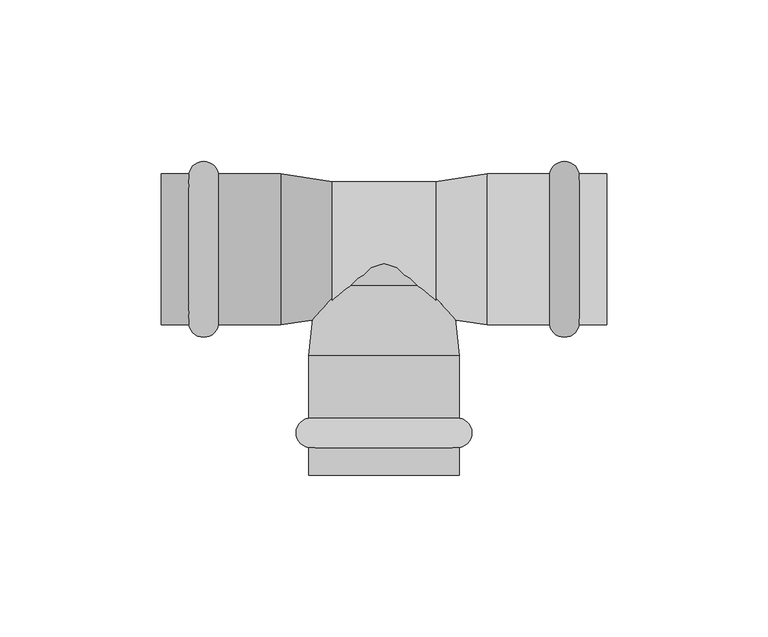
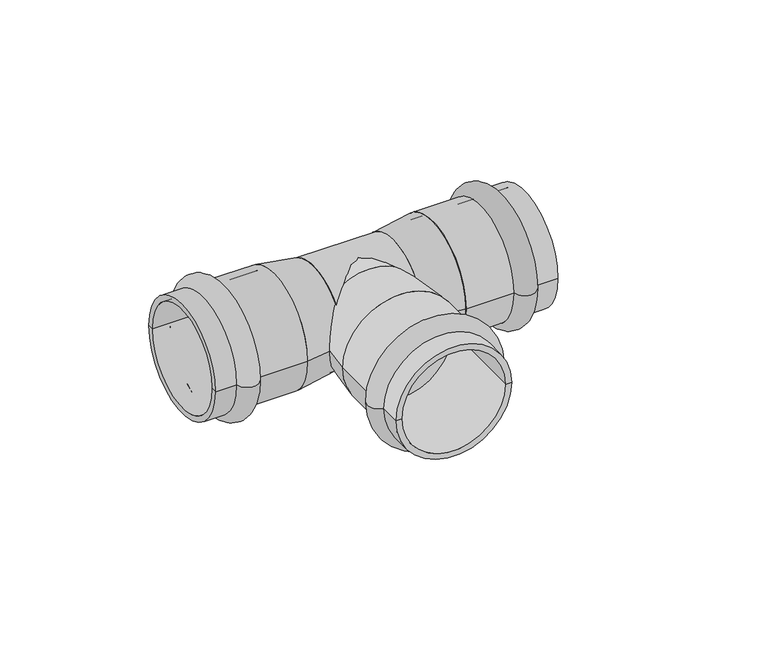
"""IFC4 building model written with IfcOpenShell, lengths in millimetres: pipe fitting geometry, VALTEC_VTi.931.I_Тройник_Ннержавеющая сталь : VTi.931.I."""

from ifc_helpers import new_model, si_unit, point, frame, origin, origin_2d, place, context, project, spatial, polyline, circle_curve, ellipse_curve, trimmed, segment, composite_curve, outline, extrude, source, transform, mapped, element, save
from ifc_brep_helpers import plane_surface, cylinder_surface, revolved_surface, advanced_brep


def pipe_fitting_5453f1fb(model_context):
    return source(origin(), model_context, "Body", "SolidModel", [
        advanced_brep(
        [(23.35, -61.4464272, 0.0), (-23.35, -61.4464272, 0.0), (-23.35, -52.3535728, 0.0), (23.35, -52.3535728, 0.0), (23.35, -70.0, 0.0), (-23.35, -70.0, 0.0), (21.0, -70.0, 0.0), (-21.0, -70.0, 0.0), (21.0, -33.0, 0.0), (-21.0, -33.0, 0.0), (23.35, -33.0, 0.0), (-23.35, -33.0, 0.0)],
        [
            (0, 1, circle_curve(frame((0.0, -61.4464272, 0.0), z_axis=(0.0, 1.0, 0.0), x_axis=(-1.0, 0.0, 0.0)), 23.35)),
            (1, 2, circle_curve(frame((-22.65, -56.9, 0.0), z_axis=(0.0, 0.0, -1.0), x_axis=(0.0, 1.0, 0.0)), 4.6)),
            (2, 3, circle_curve(frame((0.0, -52.3535728, 0.0), z_axis=(0.0, -1.0, 0.0), x_axis=(-1.0, 0.0, 0.0)), 23.35)),
            (3, 0, circle_curve(frame((22.65, -56.9, 0.0), z_axis=(0.0, 0.0, -1.0), x_axis=(0.0, 1.0, 0.0)), 4.6)),
            (1, 0, circle_curve(frame((0.0, -61.4464272, 0.0), z_axis=(0.0, 1.0, 0.0), x_axis=(-1.0, 0.0, 0.0)), 23.35)),
            (3, 2, circle_curve(frame((0.0, -52.3535728, 0.0), z_axis=(0.0, -1.0, 0.0), x_axis=(-1.0, 0.0, 0.0)), 23.35)),
            (4, 5, circle_curve(frame((0.0, -70.0, 0.0), z_axis=(0.0, 1.0, 0.0), x_axis=(-1.0, 0.0, 0.0)), 23.35)),
            (5, 1),
            (0, 4),
            (5, 4, circle_curve(frame((0.0, -70.0, 0.0), z_axis=(0.0, 1.0, 0.0), x_axis=(-1.0, 0.0, 0.0)), 23.35)),
            (6, 7, circle_curve(frame((0.0, -70.0, 0.0), z_axis=(0.0, 1.0, 0.0), x_axis=(-1.0, 0.0, 0.0)), 21.0)),
            (7, 5),
            (4, 6),
            (7, 6, circle_curve(frame((0.0, -70.0, 0.0), z_axis=(0.0, 1.0, 0.0), x_axis=(-1.0, 0.0, 0.0)), 21.0)),
            (8, 9, circle_curve(frame((0.0, -33.0, 0.0), z_axis=(0.0, 1.0, 0.0), x_axis=(-1.0, 0.0, 0.0)), 21.0)),
            (9, 7),
            (6, 8),
            (9, 8, circle_curve(frame((0.0, -33.0, 0.0), z_axis=(0.0, 1.0, 0.0), x_axis=(-1.0, 0.0, 0.0)), 21.0)),
            (10, 11, circle_curve(frame((0.0, -33.0, 0.0), z_axis=(0.0, 1.0, 0.0), x_axis=(-1.0, 0.0, 0.0)), 23.35)),
            (11, 9),
            (8, 10),
            (11, 10, circle_curve(frame((0.0, -33.0, 0.0), z_axis=(0.0, 1.0, 0.0), x_axis=(-1.0, 0.0, 0.0)), 23.35)),
            (2, 11),
            (10, 3),
        ],
        [
            revolved_surface(trimmed(ellipse_curve(frame((-22.65, -56.9, 0.0), z_axis=(0.0, 0.0, 1.0), x_axis=(0.0, 1.0, 0.0)), 4.6, 4.6), [point((-23.35, -52.3535728, 0.0))], [point((-23.35, -61.4464272, 0.0))], True, "CARTESIAN"), (0.0, -73.5364426, 0.0), (0.0, -1.0, 0.0)),
            cylinder_surface(frame((0.0, -73.5364426, 0.0), z_axis=(0.0, -1.0, 0.0), x_axis=(-1.0, 0.0, 0.0)), 23.35),
            plane_surface(frame((0.0, -70.0, 0.0), z_axis=(0.0, -1.0, 0.0), x_axis=(-1.0, 0.0, 0.0))),
            revolved_surface(polyline([(-21.0, -70.0, 0.0), (-21.0, -33.0, 0.0)]), (0.0, -73.5364426, 0.0), (0.0, -1.0, 0.0)),
            plane_surface(frame((0.0, -33.0, 0.0), z_axis=(0.0, 1.0, 0.0), x_axis=(-1.0, 0.0, 0.0))),
        ],
        [
            (0, [[1, 2, 3, 4]]),
            (0, [[5, -4, 6, -2]]),
            (1, [[7, 8, -1, 9]]),
            (1, [[10, -9, -5, -8]]),
            (2, [[11, 12, -7, 13]]),
            (2, [[14, -13, -10, -12]]),
            (3, [[15, 16, -11, 17]]),
            (3, [[18, -17, -14, -16]]),
            (4, [[19, 20, -15, 21]]),
            (4, [[22, -21, -18, -20]]),
            (1, [[-3, 23, -19, 24]]),
            (1, [[-6, -24, -22, -23]]),
        ],
    ),
        advanced_brep(
        [(60.4464272, 23.35, 0.0), (60.4464272, -23.35, 0.0), (51.3535728, -23.35, 0.0), (51.3535728, 23.35, 0.0), (69.0, 23.35, 0.0), (69.0, -23.35, 0.0), (69.0, 21.0, 0.0), (69.0, -21.0, 0.0), (32.0, 21.0, 0.0), (32.0, -21.0, 0.0), (32.0, 23.35, 0.0), (32.0, -23.35, 0.0)],
        [
            (0, 1, circle_curve(frame((60.4464272, 0.0, 0.0), z_axis=(-1.0, 0.0, 0.0), x_axis=(0.0, -1.0, 0.0)), 23.35)),
            (1, 2, circle_curve(frame((55.9, -22.65, 0.0), z_axis=(0.0, 0.0, -1.0), x_axis=(-1.0, 0.0, 0.0)), 4.6)),
            (2, 3, circle_curve(frame((51.3535728, 0.0, 0.0), z_axis=(1.0, 0.0, 0.0), x_axis=(0.0, -1.0, 0.0)), 23.35)),
            (3, 0, circle_curve(frame((55.9, 22.65, 0.0), z_axis=(0.0, 0.0, -1.0), x_axis=(-1.0, 0.0, 0.0)), 4.6)),
            (1, 0, circle_curve(frame((60.4464272, 0.0, 0.0), z_axis=(-1.0, 0.0, 0.0), x_axis=(0.0, -1.0, 0.0)), 23.35)),
            (3, 2, circle_curve(frame((51.3535728, 0.0, 0.0), z_axis=(1.0, 0.0, 0.0), x_axis=(0.0, -1.0, 0.0)), 23.35)),
            (4, 5, circle_curve(frame((69.0, 0.0, 0.0), z_axis=(-1.0, 0.0, 0.0), x_axis=(0.0, -1.0, 0.0)), 23.35)),
            (5, 1),
            (0, 4),
            (5, 4, circle_curve(frame((69.0, 0.0, 0.0), z_axis=(-1.0, 0.0, 0.0), x_axis=(0.0, -1.0, 0.0)), 23.35)),
            (6, 7, circle_curve(frame((69.0, 0.0, 0.0), z_axis=(-1.0, 0.0, 0.0), x_axis=(0.0, -1.0, 0.0)), 21.0)),
            (7, 5),
            (4, 6),
            (7, 6, circle_curve(frame((69.0, 0.0, 0.0), z_axis=(-1.0, 0.0, 0.0), x_axis=(0.0, -1.0, 0.0)), 21.0)),
            (8, 9, circle_curve(frame((32.0, 0.0, 0.0), z_axis=(-1.0, 0.0, 0.0), x_axis=(0.0, -1.0, 0.0)), 21.0)),
            (9, 7),
            (6, 8),
            (9, 8, circle_curve(frame((32.0, 0.0, 0.0), z_axis=(-1.0, 0.0, 0.0), x_axis=(0.0, -1.0, 0.0)), 21.0)),
            (10, 11, circle_curve(frame((32.0, 0.0, 0.0), z_axis=(-1.0, 0.0, 0.0), x_axis=(0.0, -1.0, 0.0)), 23.35)),
            (11, 9),
            (8, 10),
            (11, 10, circle_curve(frame((32.0, 0.0, 0.0), z_axis=(-1.0, 0.0, 0.0), x_axis=(0.0, -1.0, 0.0)), 23.35)),
            (2, 11),
            (10, 3),
        ],
        [
            revolved_surface(trimmed(ellipse_curve(frame((55.9, -22.65, 0.0), z_axis=(0.0, 0.0, 1.0), x_axis=(-1.0, 0.0, 0.0)), 4.6, 4.6), [point((51.3535728, -23.35, 0.0))], [point((60.4464272, -23.35, 0.0))], True, "CARTESIAN"), (72.5364426, 0.0, 0.0), (1.0, 0.0, 0.0)),
            cylinder_surface(frame((72.5364426, 0.0, 0.0), z_axis=(1.0, 0.0, 0.0), x_axis=(0.0, -1.0, 0.0)), 23.35),
            plane_surface(frame((69.0, 0.0, 0.0), z_axis=(1.0, 0.0, 0.0), x_axis=(0.0, -1.0, 0.0))),
            revolved_surface(polyline([(69.0, -21.0, 0.0), (32.0, -21.0, 0.0)]), (72.5364426, 0.0, 0.0), (1.0, 0.0, 0.0)),
            plane_surface(frame((32.0, 0.0, 0.0), z_axis=(-1.0, 0.0, 0.0), x_axis=(0.0, -1.0, 0.0))),
        ],
        [
            (0, [[1, 2, 3, 4]]),
            (0, [[5, -4, 6, -2]]),
            (1, [[7, 8, -1, 9]]),
            (1, [[10, -9, -5, -8]]),
            (2, [[11, 12, -7, 13]]),
            (2, [[14, -13, -10, -12]]),
            (3, [[15, 16, -11, 17]]),
            (3, [[18, -17, -14, -16]]),
            (4, [[19, 20, -15, 21]]),
            (4, [[22, -21, -18, -20]]),
            (1, [[-3, 23, -19, 24]]),
            (1, [[-6, -24, -22, -23]]),
        ],
    ),
        advanced_brep(
        [(-60.4464272, -23.35, 0.0), (-60.4464272, 23.35, 0.0), (-51.3535728, 23.35, 0.0), (-51.3535728, -23.35, 0.0), (-69.0, -23.35, 0.0), (-69.0, 23.35, 0.0), (-69.0, -21.0, 0.0), (-69.0, 21.0, 0.0), (-32.0, -21.0, 0.0), (-32.0, 21.0, 0.0), (-32.0, -23.35, 0.0), (-32.0, 23.35, 0.0)],
        [
            (0, 1, circle_curve(frame((-60.4464272, 0.0, 0.0), z_axis=(1.0, 0.0, 0.0), x_axis=(0.0, 1.0, 0.0)), 23.35)),
            (1, 2, circle_curve(frame((-55.9, 22.65, 0.0), z_axis=(0.0, 0.0, -1.0), x_axis=(1.0, 0.0, 0.0)), 4.6)),
            (2, 3, circle_curve(frame((-51.3535728, 0.0, 0.0), z_axis=(-1.0, 0.0, 0.0), x_axis=(0.0, 1.0, 0.0)), 23.35)),
            (3, 0, circle_curve(frame((-55.9, -22.65, 0.0), z_axis=(0.0, 0.0, -1.0), x_axis=(1.0, 0.0, 0.0)), 4.6)),
            (1, 0, circle_curve(frame((-60.4464272, 0.0, 0.0), z_axis=(1.0, 0.0, 0.0), x_axis=(0.0, 1.0, 0.0)), 23.35)),
            (3, 2, circle_curve(frame((-51.3535728, 0.0, 0.0), z_axis=(-1.0, 0.0, 0.0), x_axis=(0.0, 1.0, 0.0)), 23.35)),
            (4, 5, circle_curve(frame((-69.0, 0.0, 0.0), z_axis=(1.0, 0.0, 0.0), x_axis=(0.0, 1.0, 0.0)), 23.35)),
            (5, 1),
            (0, 4),
            (5, 4, circle_curve(frame((-69.0, 0.0, 0.0), z_axis=(1.0, 0.0, 0.0), x_axis=(0.0, 1.0, 0.0)), 23.35)),
            (6, 7, circle_curve(frame((-69.0, 0.0, 0.0), z_axis=(1.0, 0.0, 0.0), x_axis=(0.0, 1.0, 0.0)), 21.0)),
            (7, 5),
            (4, 6),
            (7, 6, circle_curve(frame((-69.0, 0.0, 0.0), z_axis=(1.0, 0.0, 0.0), x_axis=(0.0, 1.0, 0.0)), 21.0)),
            (8, 9, circle_curve(frame((-32.0, 0.0, 0.0), z_axis=(1.0, 0.0, 0.0), x_axis=(0.0, 1.0, 0.0)), 21.0)),
            (9, 7),
            (6, 8),
            (9, 8, circle_curve(frame((-32.0, 0.0, 0.0), z_axis=(1.0, 0.0, 0.0), x_axis=(0.0, 1.0, 0.0)), 21.0)),
            (10, 11, circle_curve(frame((-32.0, 0.0, 0.0), z_axis=(1.0, 0.0, 0.0), x_axis=(0.0, 1.0, 0.0)), 23.35)),
            (11, 9),
            (8, 10),
            (11, 10, circle_curve(frame((-32.0, 0.0, 0.0), z_axis=(1.0, 0.0, 0.0), x_axis=(0.0, 1.0, 0.0)), 23.35)),
            (2, 11),
            (10, 3),
        ],
        [
            revolved_surface(trimmed(ellipse_curve(frame((-55.9, 22.65, 0.0), z_axis=(0.0, 0.0, 1.0), x_axis=(1.0, 0.0, 0.0)), 4.6, 4.6), [point((-51.3535728, 23.35, 0.0))], [point((-60.4464272, 23.35, 0.0))], True, "CARTESIAN"), (-72.5364426, 0.0, 0.0), (-1.0, 0.0, 0.0)),
            cylinder_surface(frame((-72.5364426, 0.0, 0.0), z_axis=(-1.0, 0.0, 0.0), x_axis=(0.0, 1.0, 0.0)), 23.35),
            plane_surface(frame((-69.0, 0.0, 0.0), z_axis=(-1.0, 0.0, 0.0), x_axis=(0.0, 1.0, 0.0))),
            revolved_surface(polyline([(-69.0, 21.0, 0.0), (-32.0, 21.0, 0.0)]), (-72.5364426, 0.0, 0.0), (-1.0, 0.0, 0.0)),
            plane_surface(frame((-32.0, 0.0, 0.0), z_axis=(1.0, 0.0, 0.0), x_axis=(0.0, 1.0, 0.0))),
        ],
        [
            (0, [[1, 2, 3, 4]]),
            (0, [[5, -4, 6, -2]]),
            (1, [[7, 8, -1, 9]]),
            (1, [[10, -9, -5, -8]]),
            (2, [[11, 12, -7, 13]]),
            (2, [[14, -13, -10, -12]]),
            (3, [[15, 16, -11, 17]]),
            (3, [[18, -17, -14, -16]]),
            (4, [[19, 20, -15, 21]]),
            (4, [[22, -21, -18, -20]]),
            (1, [[-3, 23, -19, 24]]),
            (1, [[-6, -24, -22, -23]]),
        ],
    ),
        extrude(outline(composite_curve([segment(trimmed(circle_curve(origin_2d(), 21.0), [point((-21.0, 0.0))], [point((21.0, 0.0))], False, "CARTESIAN"), True, "CONTINUOUS"), segment(trimmed(circle_curve(origin_2d(), 21.0), [point((21.0, 0.0))], [point((-21.0, 0.0))], False, "CARTESIAN"), True, "CONTINUOUS")], self_intersect=False)), frame((-16.0, 0.0, 0.0), z_axis=(1.0, 0.0, 0.0), x_axis=(0.0, 1.0, 0.0)), (0.0, 0.0, 1.0), 32.0),
        advanced_brep(
        [(-23.35, -33.0, 0.0), (23.35, -33.0, 0.0), (-21.0, -11.3209826, 0.0), (21.0, -11.3209826, 0.0)],
        [
            (0, 1, circle_curve(frame((0.0, -33.0, 0.0), z_axis=(0.0, -1.0, 0.0), x_axis=(-1.0, 0.0, 0.0)), 23.35)),
            (1, 0, circle_curve(frame((0.0, -33.0, 0.0), z_axis=(0.0, -1.0, 0.0), x_axis=(1.0, 0.0, 0.0)), 23.35)),
            (2, 3, circle_curve(frame((0.0, -11.3209826, 0.0), z_axis=(0.0, 1.0, 0.0), x_axis=(1.0, 0.0, 0.0)), 21.0)),
            (3, 2, circle_curve(frame((0.0, -11.3209826, 0.0), z_axis=(0.0, 1.0, 0.0), x_axis=(-1.0, 0.0, 0.0)), 21.0)),
            (3, 1),
            (0, 2),
        ],
        [
            plane_surface(frame((0.0, -33.0, 0.0), z_axis=(0.0, -1.0, 0.0), x_axis=(0.0, 0.0, 1.0))),
            plane_surface(frame((0.0, -11.3209826, 0.0), z_axis=(0.0, 1.0, 0.0), x_axis=(0.0, 0.0, 1.0))),
            revolved_surface(polyline([(21.000000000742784, -11.320982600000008, 0.0), (23.35, -33.0, 0.0)]), (0.0, 182.406407, 0.0), (0.0, -1.0, 0.0)),
            revolved_surface(polyline([(-21.000000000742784, -11.320982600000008, 0.0), (-23.35, -33.0, 0.0)]), (0.0, 182.406407, 0.0), (0.0, -1.0, 0.0)),
        ],
        [
            (0, [[1, 2]]),
            (1, [[3, 4]]),
            (2, [[-4, 5, -1, 6]]),
            (3, [[-3, -6, -2, -5]]),
        ],
    ),
        extrude(outline(composite_curve([segment(trimmed(circle_curve(origin_2d(), 21.0), [point((0.0, -21.0))], [point((0.0, 21.0))], False, "CARTESIAN"), True, "CONTINUOUS"), segment(trimmed(circle_curve(origin_2d(), 21.0), [point((0.0, 21.0))], [point((0.0, -21.0))], False, "CARTESIAN"), True, "CONTINUOUS")], self_intersect=False)), frame((0.0, -11.3209826, 0.0), z_axis=(0.0, 1.0, 0.0), x_axis=(0.0, 0.0, 1.0)), (0.0, 0.0, 1.0), 11.3209826),
        advanced_brep(
        [(32.0, -23.35, 0.0), (32.0, 23.35, 0.0), (16.0, -21.0, 0.0), (16.0, 21.0, 0.0)],
        [
            (0, 1, circle_curve(frame((32.0, 0.0, 0.0), z_axis=(1.0, 0.0, 0.0), x_axis=(0.0, -1.0, 0.0)), 23.35)),
            (1, 0, circle_curve(frame((32.0, 0.0, 0.0), z_axis=(1.0, 0.0, 0.0), x_axis=(0.0, 1.0, 0.0)), 23.35)),
            (2, 3, circle_curve(frame((16.0, 0.0, 0.0), z_axis=(-1.0, 0.0, 0.0), x_axis=(0.0, 1.0, 0.0)), 21.0)),
            (3, 2, circle_curve(frame((16.0, 0.0, 0.0), z_axis=(-1.0, 0.0, 0.0), x_axis=(0.0, -1.0, 0.0)), 21.0)),
            (3, 1),
            (0, 2),
        ],
        [
            plane_surface(frame((32.0, 0.0, 0.0), z_axis=(1.0, 0.0, 0.0), x_axis=(0.0, 0.0, 1.0))),
            plane_surface(frame((16.0, 0.0, 0.0), z_axis=(-1.0, 0.0, 0.0), x_axis=(0.0, 0.0, 1.0))),
            revolved_surface(polyline([(16.0, 20.9999999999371, 0.0), (32.0, 23.35, 0.0)]), (-126.9787234, 0.0, 0.0), (1.0, 0.0, 0.0)),
            revolved_surface(polyline([(16.0, -20.9999999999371, 0.0), (32.0, -23.35, 0.0)]), (-126.9787234, 0.0, 0.0), (1.0, 0.0, 0.0)),
        ],
        [
            (0, [[1, 2]]),
            (1, [[3, 4]]),
            (2, [[-4, 5, -1, 6]]),
            (3, [[-3, -6, -2, -5]]),
        ],
    ),
        advanced_brep(
        [(-32.0, -23.35, 0.0), (-32.0, 23.35, 0.0), (-16.0, -21.0, 0.0), (-16.0, 21.0, 0.0)],
        [
            (0, 1, circle_curve(frame((-32.0, 0.0, 0.0), z_axis=(-1.0, 0.0, 0.0), x_axis=(0.0, -1.0, 0.0)), 23.35)),
            (1, 0, circle_curve(frame((-32.0, 0.0, 0.0), z_axis=(-1.0, 0.0, 0.0), x_axis=(0.0, 1.0, 0.0)), 23.35)),
            (2, 3, circle_curve(frame((-16.0, 0.0, 0.0), z_axis=(1.0, 0.0, 0.0), x_axis=(0.0, 1.0, 0.0)), 21.0)),
            (3, 2, circle_curve(frame((-16.0, 0.0, 0.0), z_axis=(1.0, 0.0, 0.0), x_axis=(0.0, -1.0, 0.0)), 21.0)),
            (2, 0),
            (1, 3),
        ],
        [
            plane_surface(frame((-32.0, 0.0, 0.0), z_axis=(-1.0, 0.0, 0.0), x_axis=(0.0, 0.0, -1.0))),
            plane_surface(frame((-16.0, 0.0, 0.0), z_axis=(1.0, 0.0, 0.0), x_axis=(0.0, 0.0, -1.0))),
            revolved_surface(polyline([(-16.0, -20.9999999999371, 0.0), (-32.0, -23.35, 0.0)]), (126.9787234, 0.0, 0.0), (-1.0, 0.0, 0.0)),
            revolved_surface(polyline([(-16.0, 20.9999999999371, 0.0), (-32.0, 23.35, 0.0)]), (126.9787234, 0.0, 0.0), (-1.0, 0.0, 0.0)),
        ],
        [
            (0, [[1, 2]]),
            (1, [[3, 4]]),
            (2, [[-3, 5, -2, 6]]),
            (3, [[-4, -6, -1, -5]]),
        ],
    ),
    ])


if __name__ == "__main__":
    model = new_model("IFC4")
    model_context = context("Model", 3, world=origin())
    ifc_project = project(units=[si_unit("LENGTHUNIT", "METRE", prefix="MILLI")], contexts=[model_context])
    site = spatial("IfcSite", under=ifc_project)
    building = spatial("IfcBuilding", under=site)
    placement = place(None, origin())
    pipe_fitting_shape = pipe_fitting_5453f1fb(model_context)
    element("IfcPipeFitting", 1, ObjectType="VALTEC_VTi.931.I_Тройник_Ннержавеющая сталь : VTi.931.I", at=placement, inside=building, context=model_context, shape_type="MappedRepresentation", body=[
        mapped(pipe_fitting_shape, transform((0.0, 0.0, 0.0), x_axis=(1.0, 0.0, 0.0), y_axis=(0.0, 1.0, 0.0), z_axis=(0.0, 0.0, 1.0))),
    ])
    save(model, "model.ifc")
